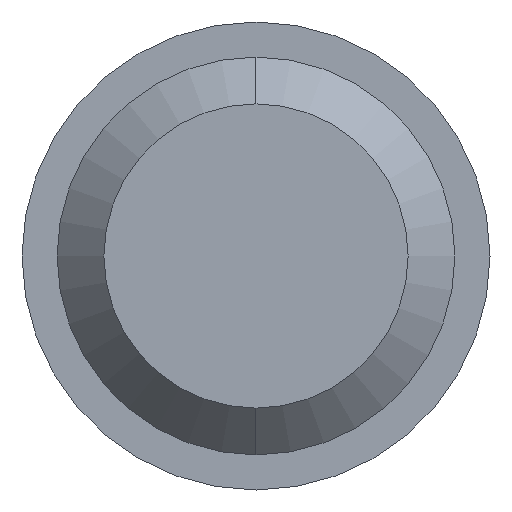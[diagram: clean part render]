
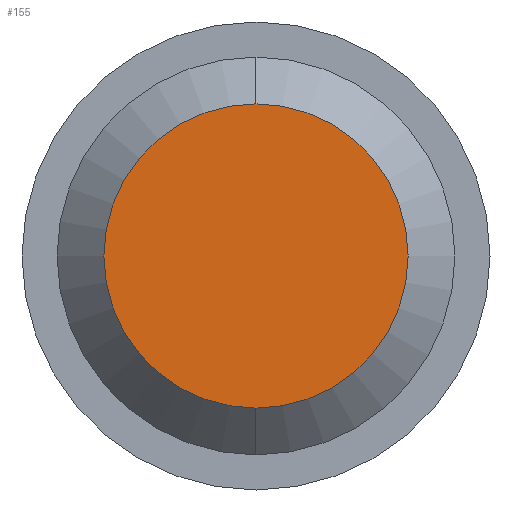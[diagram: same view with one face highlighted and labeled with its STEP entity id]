
A CAD part, left-side view. The second image highlights one B-rep face of the part: STEP entity #155.
In plain terms, the highlighted planar face has unit normal (-1, 0, 0).
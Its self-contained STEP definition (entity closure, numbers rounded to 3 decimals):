
#45 = DIRECTION ( 'NONE',  ( 0., 0., 1. ) ) ;
#46 = DIRECTION ( 'NONE',  ( -1., 0., 0. ) ) ;
#47 = CARTESIAN_POINT ( 'NONE',  ( 0., 0., 0. ) ) ;
#48 = AXIS2_PLACEMENT_3D ( 'NONE', #47, #46, #45 ) ;
#51 = CIRCLE ( 'NONE', #48, 6.5 ) ;
#55 = DIRECTION ( 'NONE',  ( 0., 0., 1. ) ) ;
#91 = AXIS2_PLACEMENT_3D ( 'NONE', #93, #92, #55 ) ;
#92 = DIRECTION ( 'NONE',  ( -1., 0., 0. ) ) ;
#93 = CARTESIAN_POINT ( 'NONE',  ( 0., 8.5, 0. ) ) ;
#137 = EDGE_CURVE ( 'NONE', #173, #143, #236, .T. ) ;
#143 = VERTEX_POINT ( 'NONE', #218 ) ;
#144 = EDGE_CURVE ( 'NONE', #143, #173, #51, .T. ) ;
#147 = ORIENTED_EDGE ( 'NONE', *, *, #137, .T. ) ;
#154 = ORIENTED_EDGE ( 'NONE', *, *, #144, .T. ) ;
#155 = ADVANCED_FACE ( 'NONE', ( #232 ), #185, .T. ) ;
#163 = EDGE_LOOP ( 'NONE', ( #147, #154 ) ) ;
#173 = VERTEX_POINT ( 'NONE', #291 ) ;
#185 = PLANE ( 'NONE',  #91 ) ;
#218 = CARTESIAN_POINT ( 'NONE',  ( 0., 0., 6.5 ) ) ;
#231 = CARTESIAN_POINT ( 'NONE',  ( 0., 0., 0. ) ) ;
#232 = FACE_OUTER_BOUND ( 'NONE', #163, .T. ) ;
#236 = CIRCLE ( 'NONE', #241, 6.5 ) ;
#239 = DIRECTION ( 'NONE',  ( 0., 0., 1. ) ) ;
#240 = DIRECTION ( 'NONE',  ( -1., 0., 0. ) ) ;
#241 = AXIS2_PLACEMENT_3D ( 'NONE', #231, #240, #239 ) ;
#291 = CARTESIAN_POINT ( 'NONE',  ( 0., 0., -6.5 ) ) ;
